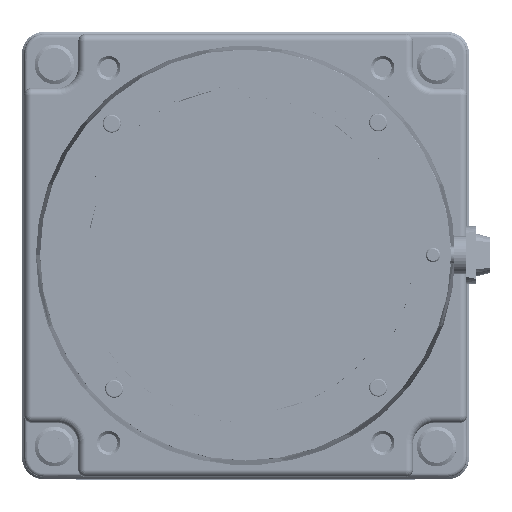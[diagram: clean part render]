
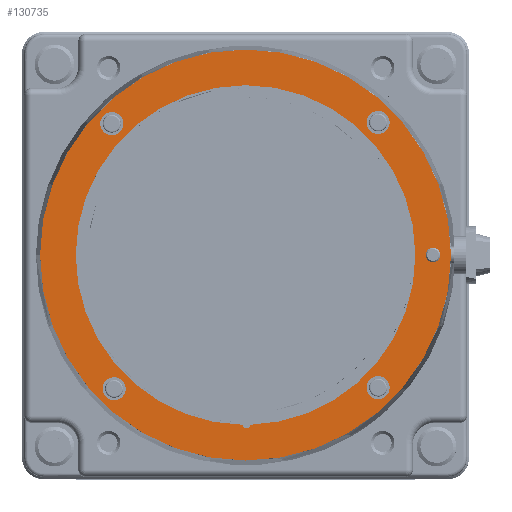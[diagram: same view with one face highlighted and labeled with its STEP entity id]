
A CAD part, top view. The second image highlights one B-rep face of the part: STEP entity #130735.
In plain terms, the highlighted planar face has unit normal (0, 0, 1).
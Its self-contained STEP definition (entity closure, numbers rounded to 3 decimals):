
#40915=CARTESIAN_POINT('',(0.,0.,3.19));
#40916=DIRECTION('',(0.,0.,-1.));
#40917=DIRECTION('',(0.,1.,0.));
#40918=AXIS2_PLACEMENT_3D('',#40915,#40916,#40917);
#40920=CARTESIAN_POINT('',(0.,0.,3.19));
#40921=DIRECTION('',(0.,0.,-1.));
#40922=DIRECTION('',(0.,-1.,0.));
#40923=AXIS2_PLACEMENT_3D('',#40920,#40921,#40922);
#40925=CARTESIAN_POINT('',(26.,0.,3.19));
#40926=DIRECTION('',(0.,0.,1.));
#40927=DIRECTION('',(1.,0.,0.));
#40928=AXIS2_PLACEMENT_3D('',#40925,#40926,#40927);
#40930=CARTESIAN_POINT('',(26.,0.,3.19));
#40931=DIRECTION('',(0.,0.,1.));
#40932=DIRECTION('',(-1.,0.,0.));
#40933=AXIS2_PLACEMENT_3D('',#40930,#40931,#40932);
#40935=CARTESIAN_POINT('',(18.385,18.385,3.19));
#40936=DIRECTION('',(0.,0.,1.));
#40937=DIRECTION('',(-1.,0.,0.));
#40938=AXIS2_PLACEMENT_3D('',#40935,#40936,#40937);
#40940=CARTESIAN_POINT('',(18.385,18.385,3.19));
#40941=DIRECTION('',(0.,0.,1.));
#40942=DIRECTION('',(1.,0.,0.));
#40943=AXIS2_PLACEMENT_3D('',#40940,#40941,#40942);
#40945=CARTESIAN_POINT('',(-18.545,18.224,3.19));
#40946=DIRECTION('',(0.,0.,1.));
#40947=DIRECTION('',(-0.009,1.,0.));
#40948=AXIS2_PLACEMENT_3D('',#40945,#40946,#40947);
#40950=CARTESIAN_POINT('',(-18.545,18.224,3.19));
#40951=DIRECTION('',(0.,0.,1.));
#40952=DIRECTION('',(0.009,-1.,0.));
#40953=AXIS2_PLACEMENT_3D('',#40950,#40951,#40952);
#40955=CARTESIAN_POINT('',(-18.224,-18.545,3.19));
#40956=DIRECTION('',(0.,0.,1.));
#40957=DIRECTION('',(1.,0.009,0.));
#40958=AXIS2_PLACEMENT_3D('',#40955,#40956,#40957);
#40960=CARTESIAN_POINT('',(-18.224,-18.545,3.19));
#40961=DIRECTION('',(0.,0.,1.));
#40962=DIRECTION('',(-1.,-0.009,0.));
#40963=AXIS2_PLACEMENT_3D('',#40960,#40961,#40962);
#40965=CARTESIAN_POINT('',(18.385,-18.385,3.19));
#40966=DIRECTION('',(0.,0.,1.));
#40967=DIRECTION('',(0.,1.,0.));
#40968=AXIS2_PLACEMENT_3D('',#40965,#40966,#40967);
#40970=CARTESIAN_POINT('',(18.385,-18.385,3.19));
#40971=DIRECTION('',(0.,0.,1.));
#40972=DIRECTION('',(0.,-1.,0.));
#40973=AXIS2_PLACEMENT_3D('',#40970,#40971,#40972);
#40975=CARTESIAN_POINT('',(0.,0.,3.19));
#40976=DIRECTION('',(0.,0.,1.));
#40977=DIRECTION('',(0.026,-1.,0.));
#40978=AXIS2_PLACEMENT_3D('',#40975,#40976,#40977);
#40980=CARTESIAN_POINT('',(0.,0.,3.19));
#40981=DIRECTION('',(0.,0.,1.));
#40982=DIRECTION('',(1.,0.,0.));
#40983=AXIS2_PLACEMENT_3D('',#40980,#40981,#40982);
#40985=CARTESIAN_POINT('',(0.,0.,3.19));
#40986=DIRECTION('',(0.,0.,1.));
#40987=DIRECTION('',(-1.,0.,0.));
#40988=AXIS2_PLACEMENT_3D('',#40985,#40986,#40987);
#40990=CARTESIAN_POINT('',(0.116,-23.55,3.19));
#40991=DIRECTION('',(0.,0.,1.));
#40992=DIRECTION('',(-1.,0.005,0.));
#40993=AXIS2_PLACEMENT_3D('',#40990,#40991,#40992);
#72845=CARTESIAN_POINT('',(0.,28.5,3.19));
#72846=CARTESIAN_POINT('',(0.,-28.5,3.19));
#72847=VERTEX_POINT('',#72845);
#72848=VERTEX_POINT('',#72846);
#72849=CARTESIAN_POINT('',(27.,0.,3.19));
#72850=CARTESIAN_POINT('',(25.,0.,3.19));
#72851=VERTEX_POINT('',#72849);
#72852=VERTEX_POINT('',#72850);
#72853=CARTESIAN_POINT('',(16.785,18.385,3.19));
#72854=CARTESIAN_POINT('',(19.985,18.385,3.19));
#72855=VERTEX_POINT('',#72853);
#72856=VERTEX_POINT('',#72854);
#72857=CARTESIAN_POINT('',(-18.558,19.824,3.19));
#72858=CARTESIAN_POINT('',(-18.531,16.624,3.19));
#72859=VERTEX_POINT('',#72857);
#72860=VERTEX_POINT('',#72858);
#72861=CARTESIAN_POINT('',(-16.624,-18.531,3.19));
#72862=CARTESIAN_POINT('',(-19.824,-18.558,3.19));
#72863=VERTEX_POINT('',#72861);
#72864=VERTEX_POINT('',#72862);
#72865=CARTESIAN_POINT('',(18.385,-16.785,3.19));
#72866=CARTESIAN_POINT('',(18.385,-19.985,3.19));
#72867=VERTEX_POINT('',#72865);
#72868=VERTEX_POINT('',#72866);
#72869=CARTESIAN_POINT('',(0.616,-23.542,3.19));
#72870=CARTESIAN_POINT('',(23.55,0.,3.19));
#72871=VERTEX_POINT('',#72869);
#72872=VERTEX_POINT('',#72870);
#72873=CARTESIAN_POINT('',(-23.55,0.,3.19));
#72874=VERTEX_POINT('',#72873);
#72875=CARTESIAN_POINT('',(-0.385,-23.547,3.19));
#72876=VERTEX_POINT('',#72875);
#130685=CARTESIAN_POINT('',(0.,0.,3.19));
#130686=DIRECTION('',(0.,0.,1.));
#130687=DIRECTION('',(1.,0.,0.));
#130688=AXIS2_PLACEMENT_3D('',#130685,#130686,#130687);
#130689=PLANE('',#130688);
#130690=ORIENTED_EDGE('',*,*,#130675,.T.);
#130692=ORIENTED_EDGE('',*,*,#130691,.T.);
#130693=EDGE_LOOP('',(#130690,#130692));
#130694=FACE_OUTER_BOUND('',#130693,.F.);
#130696=ORIENTED_EDGE('',*,*,#130695,.T.);
#130698=ORIENTED_EDGE('',*,*,#130697,.T.);
#130699=EDGE_LOOP('',(#130696,#130698));
#130700=FACE_BOUND('',#130699,.F.);
#130702=ORIENTED_EDGE('',*,*,#130701,.T.);
#130704=ORIENTED_EDGE('',*,*,#130703,.T.);
#130705=EDGE_LOOP('',(#130702,#130704));
#130706=FACE_BOUND('',#130705,.F.);
#130708=ORIENTED_EDGE('',*,*,#130707,.T.);
#130710=ORIENTED_EDGE('',*,*,#130709,.T.);
#130711=EDGE_LOOP('',(#130708,#130710));
#130712=FACE_BOUND('',#130711,.F.);
#130714=ORIENTED_EDGE('',*,*,#130713,.T.);
#130716=ORIENTED_EDGE('',*,*,#130715,.T.);
#130717=EDGE_LOOP('',(#130714,#130716));
#130718=FACE_BOUND('',#130717,.F.);
#130720=ORIENTED_EDGE('',*,*,#130719,.T.);
#130722=ORIENTED_EDGE('',*,*,#130721,.T.);
#130723=EDGE_LOOP('',(#130720,#130722));
#130724=FACE_BOUND('',#130723,.F.);
#130726=ORIENTED_EDGE('',*,*,#130725,.T.);
#130728=ORIENTED_EDGE('',*,*,#130727,.T.);
#130730=ORIENTED_EDGE('',*,*,#130729,.T.);
#130732=ORIENTED_EDGE('',*,*,#130731,.T.);
#130733=EDGE_LOOP('',(#130726,#130728,#130730,#130732));
#130734=FACE_BOUND('',#130733,.F.);
#130735=ADVANCED_FACE('',(#130694,#130700,#130706,#130712,#130718,#130724,
#130734),#130689,.T.);
#40919=CIRCLE('',#40918,28.5);
#40924=CIRCLE('',#40923,28.5);
#40929=CIRCLE('',#40928,1.);
#40934=CIRCLE('',#40933,1.);
#40939=CIRCLE('',#40938,1.6);
#40944=CIRCLE('',#40943,1.6);
#40949=CIRCLE('',#40948,1.6);
#40954=CIRCLE('',#40953,1.6);
#40959=CIRCLE('',#40958,1.6);
#40964=CIRCLE('',#40963,1.6);
#40969=CIRCLE('',#40968,1.6);
#40974=CIRCLE('',#40973,1.6);
#40979=CIRCLE('',#40978,23.55);
#40984=CIRCLE('',#40983,23.55);
#40989=CIRCLE('',#40988,23.55);
#40994=CIRCLE('',#40993,0.5);
#130675=EDGE_CURVE('',#72847,#72848,#40919,.T.);
#130691=EDGE_CURVE('',#72848,#72847,#40924,.T.);
#130695=EDGE_CURVE('',#72851,#72852,#40929,.T.);
#130697=EDGE_CURVE('',#72852,#72851,#40934,.T.);
#130701=EDGE_CURVE('',#72855,#72856,#40939,.T.);
#130703=EDGE_CURVE('',#72856,#72855,#40944,.T.);
#130707=EDGE_CURVE('',#72859,#72860,#40949,.T.);
#130709=EDGE_CURVE('',#72860,#72859,#40954,.T.);
#130713=EDGE_CURVE('',#72863,#72864,#40959,.T.);
#130715=EDGE_CURVE('',#72864,#72863,#40964,.T.);
#130719=EDGE_CURVE('',#72867,#72868,#40969,.T.);
#130721=EDGE_CURVE('',#72868,#72867,#40974,.T.);
#130725=EDGE_CURVE('',#72871,#72872,#40979,.T.);
#130727=EDGE_CURVE('',#72872,#72874,#40984,.T.);
#130729=EDGE_CURVE('',#72874,#72876,#40989,.T.);
#130731=EDGE_CURVE('',#72876,#72871,#40994,.T.);
